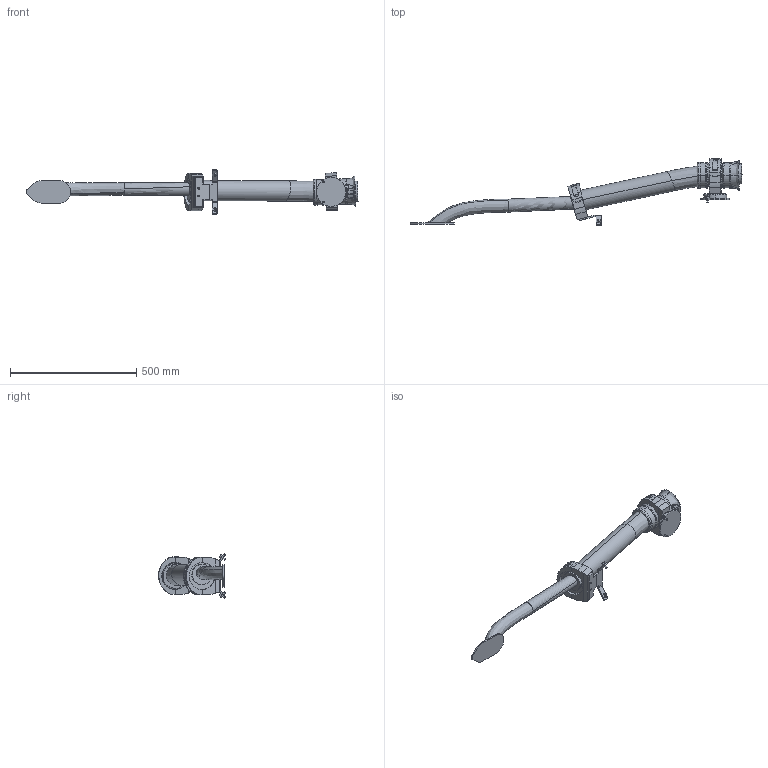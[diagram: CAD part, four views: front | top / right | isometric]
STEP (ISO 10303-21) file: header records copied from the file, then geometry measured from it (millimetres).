
FILE_DESCRIPTION (( 'STEP AP214' ), '1' );
FILE_NAME ('IRB6720-LID_140kg-320_OC_00_LINK04_CABLE.step', '2026-06-10T12:10:44', ( '' ), ( '' ), 'SwSTEP 2.0', 'SolidWorks 2024', '' );
FILE_SCHEMA (( 'AUTOMOTIVE_DESIGN' ));
Length unit declared in the file: millimetre
Products named in the file (1): IRB6720-LID_140kg-320_OC_00_LINK04_CABLE
Bounding box: 1313.1 x 265.02 x 174.65 mm (x, y, z)
Volume: 6161568.9 mm3; surface area: 466721.3 mm2
Topology: 1 solids, 1 shells, 432 faces, 1077 edges, 684 vertices
Faces by surface type: plane 223, cylinder 136, bspline 31, cone 22, torus 16, sphere 4
Entity records: 26912 total; most frequent: CARTESIAN_POINT 16802, ORIENTED_EDGE 2154, DIRECTION 2046, EDGE_CURVE 1077, AXIS2_PLACEMENT_3D 756, VERTEX_POINT 684, LINE 534, VECTOR 534
